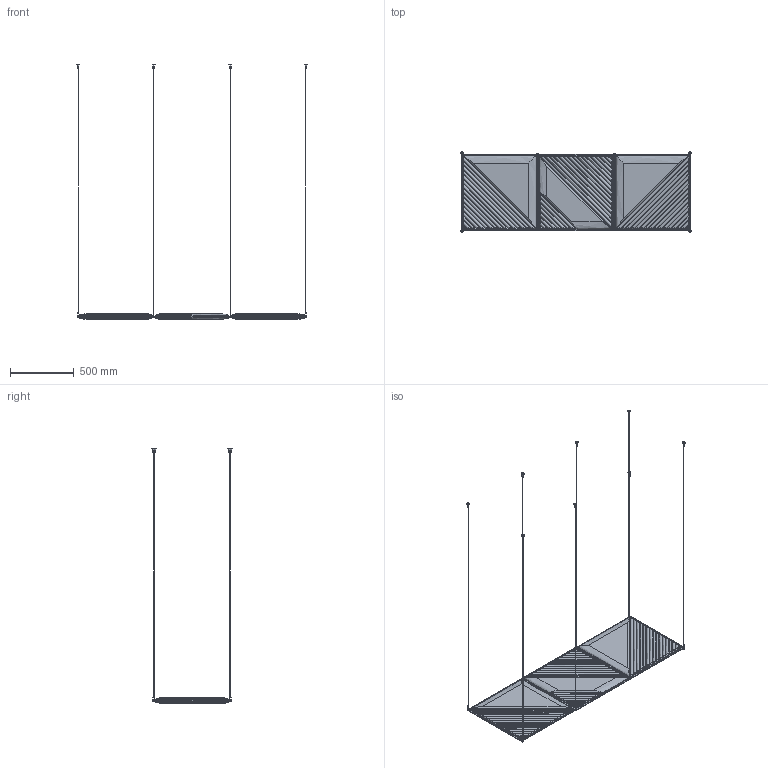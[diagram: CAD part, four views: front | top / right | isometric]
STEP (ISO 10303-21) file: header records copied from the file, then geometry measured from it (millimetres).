
FILE_DESCRIPTION(/* description */ (''),/* implementation_level */ '2;1');
FILE_NAME(/* name */ 'C3',/* time_stamp */ '2022-12-22T16:11:11+01:00',/* author */ (''),/* organization */ (''),/* preprocessor_version */ 'ST-DEVELOPER v16.5',/* originating_system */ 'Rhino 7.22',/* authorisation */ '');
FILE_SCHEMA (('CONFIG_CONTROL_DESIGN'));
Length unit declared in the file: millimetre
Products named in the file (1): Document
Bounding box: 1805.63 x 629.11 x 1998.36 mm (x, y, z)
Volume: 32109421.7 mm3; surface area: 6861273.3 mm2
Topology: 35 solids, 35 shells, 690 faces, 1662 edges, 1056 vertices
Faces by surface type: bspline 284, cylinder 272, plane 134
Entity records: 33432 total; most frequent: CARTESIAN_POINT 22818, ORIENTED_EDGE 3324, EDGE_CURVE 1662, VERTEX_POINT 1056, B_SPLINE_CURVE_WITH_KNOTS 876, EDGE_LOOP 736, ADVANCED_FACE 690, FACE_OUTER_BOUND 690
